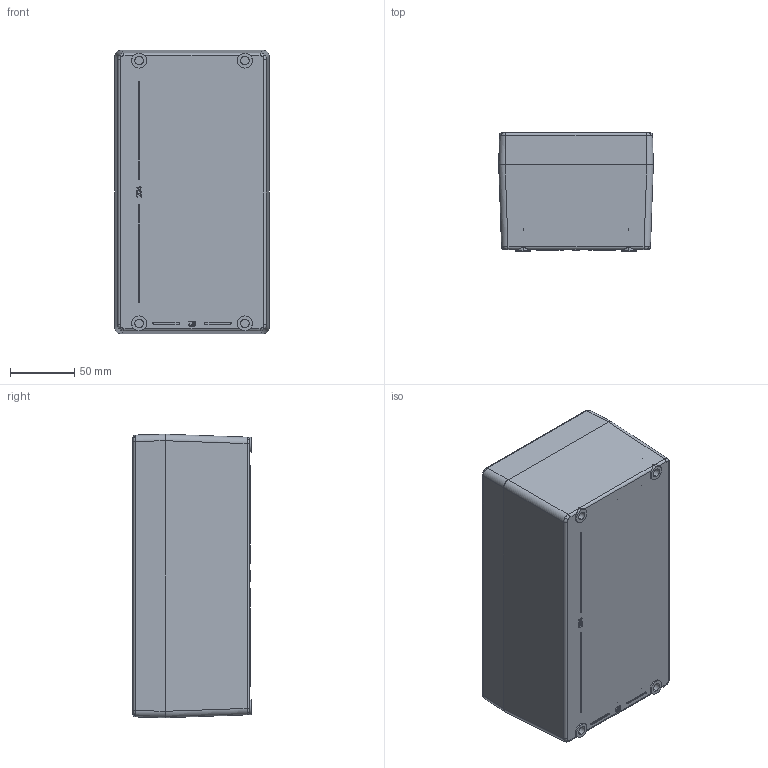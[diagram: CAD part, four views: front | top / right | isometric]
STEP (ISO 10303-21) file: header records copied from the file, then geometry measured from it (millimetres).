
FILE_DESCRIPTION (( 'STEP AP203' ), '1' );
FILE_NAME ('BPG 7.STEP', '2014-06-13T09:05:53', ( '' ), ( '' ), 'SwSTEP 2.0', 'SolidWorks 2014', '' );
FILE_SCHEMA (( 'CONFIG_CONTROL_DESIGN' ));
Length unit declared in the file: millimetre
Products named in the file (3): BPG7 Base; BPG7 Lid; BPG 7
Assembly tree (2 placements, depth 2):
  BPG 7
    BPG7 Base
    BPG7 Lid
Bounding box: 120 x 91.7 x 220 mm (x, y, z)
Volume: 549131.7 mm3; surface area: 230658.6 mm2
Topology: 2 solids, 2 shells, 423 faces, 1155 edges, 740 vertices
Faces by surface type: plane 147, cylinder 114, bspline 82, cone 68, sphere 8, torus 4
Entity records: 16934 total; most frequent: CARTESIAN_POINT 6637, ORIENTED_EDGE 2254, DIRECTION 1843, EDGE_CURVE 1127, VERTEX_POINT 740, AXIS2_PLACEMENT_3D 634, VECTOR 575, LINE 575
